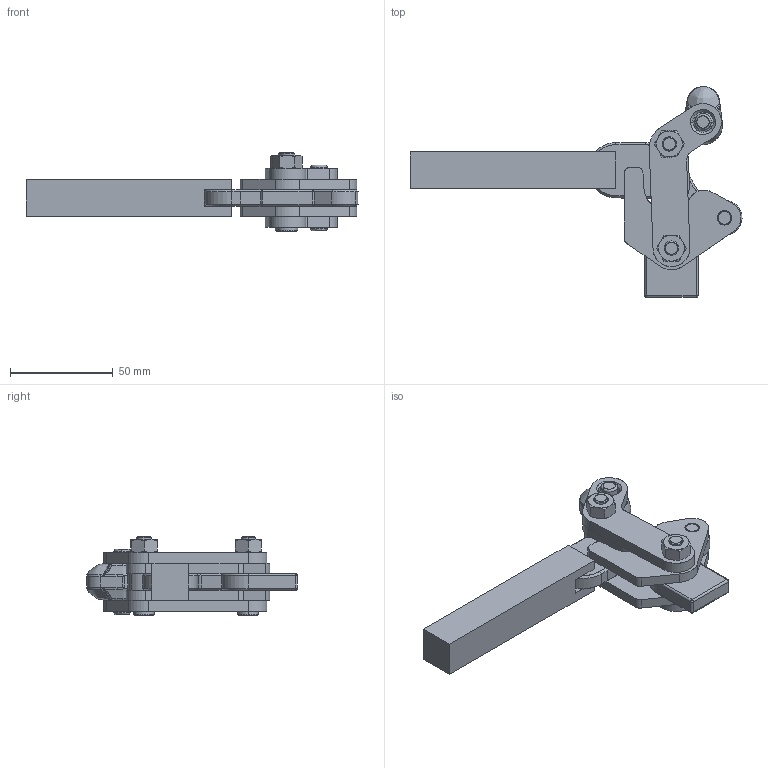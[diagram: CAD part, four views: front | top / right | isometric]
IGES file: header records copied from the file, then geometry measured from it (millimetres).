
Start section: SolidWorks IGES file using analytic representation for surfaces
Global section: file name: D:\GH Files\GH-SW-FILES\GH7\702C,701C\702C.IGS; native system: SolidWorks 2006 by SolidWorks Corporation; preprocessor: SolidWorks 2006 by SolidWorks Corporation; author: Administrator; date: 060705.124634; units: millimetre
Bounding box: 161.86 x 102.81 x 38.6 mm (x, y, z)
Surface area: 44250.1 mm2 (no closed solid volume)
Topology: 0 solids, 0 shells, 1207 faces, 9604 edges, 9599 vertices
Faces by surface type: bspline 746, revolution 461
